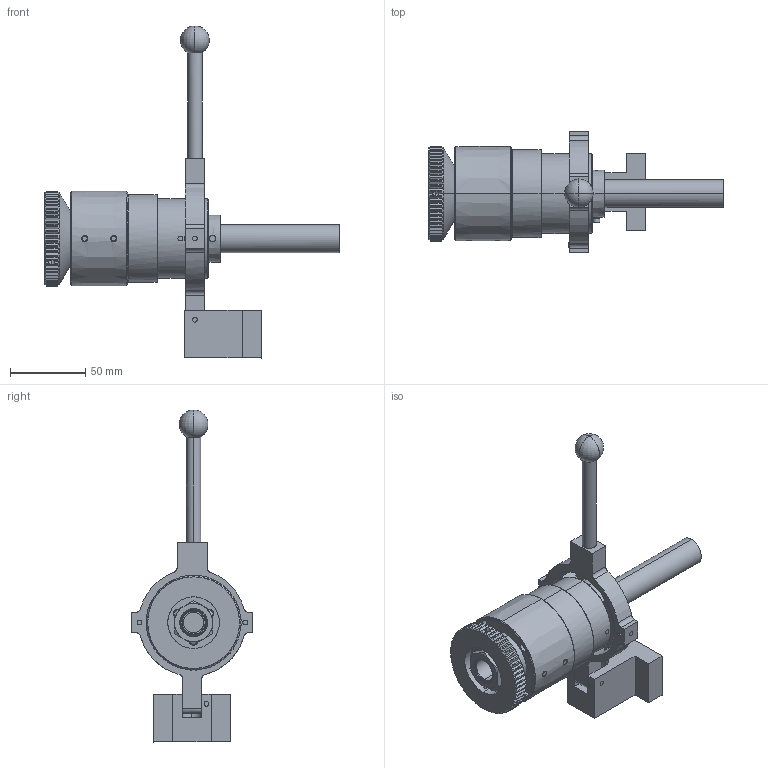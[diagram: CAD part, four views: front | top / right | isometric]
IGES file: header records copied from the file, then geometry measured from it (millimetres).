
Start section: Comment
Global section: file name: 3c lever collet closer N details.igs; native system:  By Spatial Corp.; preprocessor: XPlus PS/IGES 3.0; author: Author; organization: Title; date: 20180214.110957; units: inch
Bounding box: 195.93 x 80.97 x 220.62 mm (x, y, z)
Surface area: 112881.4 mm2 (no closed solid volume)
Topology: 0 solids, 0 shells, 1002 faces, 5141 edges, 5123 vertices
Faces by surface type: revolution 619, extrusion 379, bspline 4
